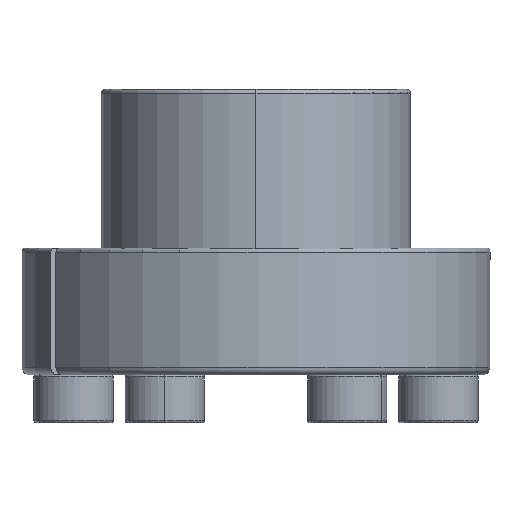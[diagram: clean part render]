
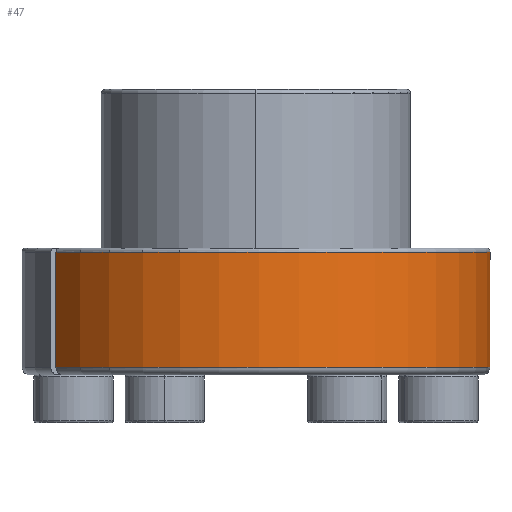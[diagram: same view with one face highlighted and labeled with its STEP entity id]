
A CAD part, left-side view. The second image highlights one B-rep face of the part: STEP entity #47.
In plain terms, the highlighted cylindrical face has radius 29.5 mm (diameter 59 mm), a partial arc.
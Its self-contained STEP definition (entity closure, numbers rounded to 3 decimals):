
#47 = ADVANCED_FACE ( 'NONE', ( #5186 ), #5190, .T. ) ;
#479 = AXIS2_PLACEMENT_3D ( 'NONE', #4279, #4280, #4281 ) ;
#616 = CARTESIAN_POINT ( 'NONE',  ( 0., -29.5, -36.9 ) ) ;
#617 = DIRECTION ( 'NONE',  ( 0., 0., -1. ) ) ;
#1040 = AXIS2_PLACEMENT_3D ( 'NONE', #7758, #7754, #7749 ) ;
#1474 = LINE ( 'NONE', #616, #1476 ) ;
#1476 = VECTOR ( 'NONE', #617, 1000. ) ;
#2560 = CIRCLE ( 'NONE', #479, 29.5 ) ;
#2929 = EDGE_CURVE ( 'NONE', #7953, #8141, #2560, .T. ) ;
#3125 = EDGE_CURVE ( 'NONE', #7978, #8135, #4813, .T. ) ;
#3606 = CARTESIAN_POINT ( 'NONE',  ( 0., 0., -20.5 ) ) ;
#3607 = DIRECTION ( 'NONE',  ( 0., 0., -1. ) ) ;
#3608 = DIRECTION ( 'NONE',  ( 0., 1., 0. ) ) ;
#3702 = CARTESIAN_POINT ( 'NONE',  ( -15.309, 25.217, -36.9 ) ) ;
#3703 = DIRECTION ( 'NONE',  ( 0., 0., -1. ) ) ;
#4279 = CARTESIAN_POINT ( 'NONE',  ( 0., 0., -35. ) ) ;
#4280 = DIRECTION ( 'NONE',  ( 0., 0., -1. ) ) ;
#4281 = DIRECTION ( 'NONE',  ( 0., 1., 0. ) ) ;
#4349 = EDGE_CURVE ( 'NONE', #8135, #8141, #4878, .T. ) ;
#4423 = AXIS2_PLACEMENT_3D ( 'NONE', #3606, #3607, #3608 ) ;
#4813 = CIRCLE ( 'NONE', #4423, 29.5 ) ;
#4878 = LINE ( 'NONE', #3702, #4881 ) ;
#4881 = VECTOR ( 'NONE', #3703, 1000. ) ;
#5186 = FACE_OUTER_BOUND ( 'NONE', #7923, .T. ) ;
#5190 = CYLINDRICAL_SURFACE ( 'NONE', #1040, 29.5 ) ;
#6187 = ORIENTED_EDGE ( 'NONE', *, *, #6439, .F. ) ;
#6220 = ORIENTED_EDGE ( 'NONE', *, *, #4349, .T. ) ;
#6339 = ORIENTED_EDGE ( 'NONE', *, *, #2929, .F. ) ;
#6342 = ORIENTED_EDGE ( 'NONE', *, *, #3125, .T. ) ;
#6439 = EDGE_CURVE ( 'NONE', #7978, #7953, #1474, .T. ) ;
#6880 = CARTESIAN_POINT ( 'NONE',  ( 0., -29.5, -20.5 ) ) ;
#6884 = CARTESIAN_POINT ( 'NONE',  ( 0., -29.5, -35. ) ) ;
#7046 = CARTESIAN_POINT ( 'NONE',  ( -15.309, 25.217, -20.5 ) ) ;
#7051 = CARTESIAN_POINT ( 'NONE',  ( -15.309, 25.217, -35. ) ) ;
#7749 = DIRECTION ( 'NONE',  ( 0., 1., 0. ) ) ;
#7754 = DIRECTION ( 'NONE',  ( 0., 0., -1. ) ) ;
#7758 = CARTESIAN_POINT ( 'NONE',  ( 0., 0., -36.9 ) ) ;
#7923 = EDGE_LOOP ( 'NONE', ( #6187, #6342, #6220, #6339 ) ) ;
#7953 = VERTEX_POINT ( 'NONE', #6884 ) ;
#7978 = VERTEX_POINT ( 'NONE', #6880 ) ;
#8135 = VERTEX_POINT ( 'NONE', #7046 ) ;
#8141 = VERTEX_POINT ( 'NONE', #7051 ) ;
